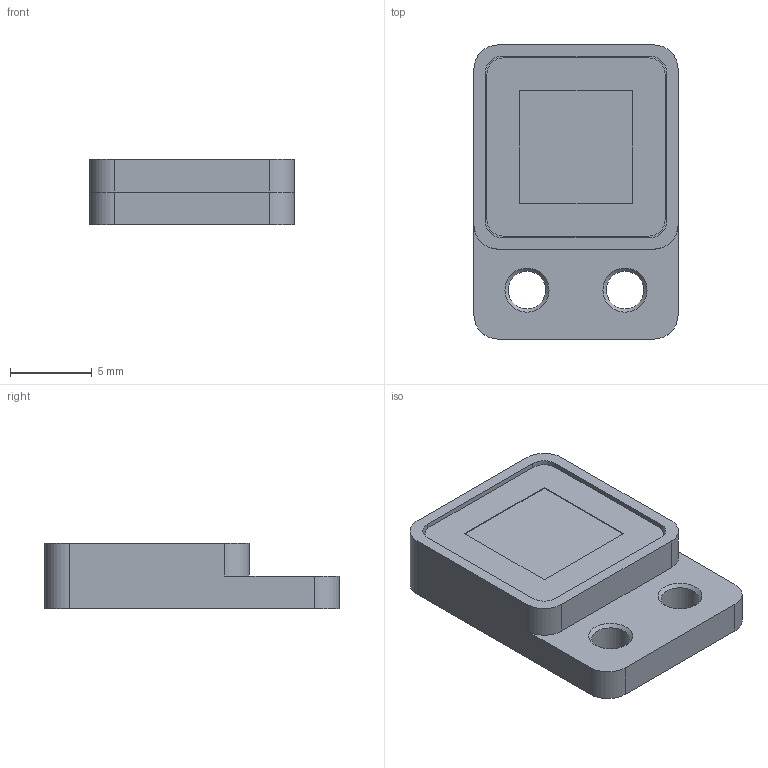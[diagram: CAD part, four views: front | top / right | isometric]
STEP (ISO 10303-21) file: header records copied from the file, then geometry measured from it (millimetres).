
FILE_DESCRIPTION(/* description */ (''),/* implementation_level */ '2;1');
FILE_NAME(/* name */ '3DCAD_MTKS_7x7M5.stp',/* time_stamp */ '2017-06-07T11:53:17+02:00',/* author */ ('CC2'),/* organization */ ('Leuze electronic'),/* preprocessor_version */ 'ST-DEVELOPER v15',/* originating_system */ 'SIEMENS PLM Software NX 8.5',/* authorisation */ '');
FILE_SCHEMA (('AUTOMOTIVE_DESIGN { 1 0 10303 214 3 1 1 1 }'));
Length unit declared in the file: millimetre
Products named in the file (1): 19-102578_00.0
Bounding box: 12.5 x 18 x 4 mm (x, y, z)
Volume: 708.8 mm3; surface area: 720.7 mm2
Topology: 1 solids, 1 shells, 41 faces, 106 edges, 70 vertices
Faces by surface type: plane 23, cylinder 16, cone 2
Full cylindrical faces by diameter (mm): 2.3 x2
Entity records: 1270 total; most frequent: DIRECTION 220, CARTESIAN_POINT 214, ORIENTED_EDGE 204, EDGE_CURVE 102, AXIS2_PLACEMENT_3D 76, VERTEX_POINT 70, LINE 68, VECTOR 68
